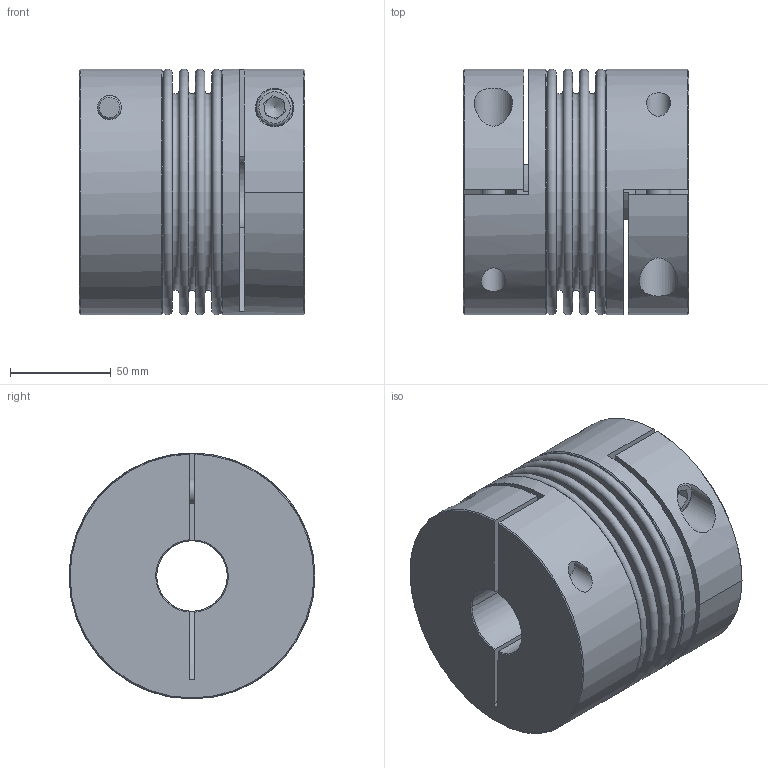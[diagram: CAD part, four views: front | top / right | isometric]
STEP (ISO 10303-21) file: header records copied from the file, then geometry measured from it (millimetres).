
FILE_DESCRIPTION( ( 'Unknown' ), '1' );
FILE_NAME( 'K:/Konstruktion/Homepage/KB4AL/KB4AL-500-112.stp', 'Unknown', ( 'Unknown' ), ( 'Unknown' ), 'PSStep 16.0.42', 'Unknown', ' ' );
FILE_SCHEMA( ( 'AUTOMOTIVE_DESIGN { 1 0 10303 214 1 1 1 1 }' ) );
Length unit declared in the file: millimetre
Products named in the file (4): Assem1; Socket Head Cap Screw_DIN_DIN 912 M12 x 55 --- 55N_1; KN500_Standard_1; BK500_Standard_0
Assembly tree (5 placements, depth 2):
  Assem1
    Socket Head Cap Screw_DIN_DIN 912 M12 x 55 --- 55N_1  x2
    KN500_Standard_1  x2
    BK500_Standard_0
Bounding box: 111.95 x 122 x 122 mm (x, y, z)
Volume: 867920.9 mm3; surface area: 206285.9 mm2
Topology: 5 solids, 5 shells, 122 faces, 264 edges, 170 vertices
Faces by surface type: plane 66, cylinder 26, torus 18, cone 12
Full cylindrical faces by diameter (mm): 12 x4, 12.5 x2, 18 x2, 19 x2, 35 x2, 107.7 x2, 108.9 x2, 122 x2
Entity records: 2743 total; most frequent: CARTESIAN_POINT 501, DIRECTION 345, ORIENTED_EDGE 236, AXIS2_PLACEMENT_3D 153, EDGE_LOOP 132, EDGE_CURVE 118, FACE_OUTER_BOUND 104, VERTEX_POINT 103
